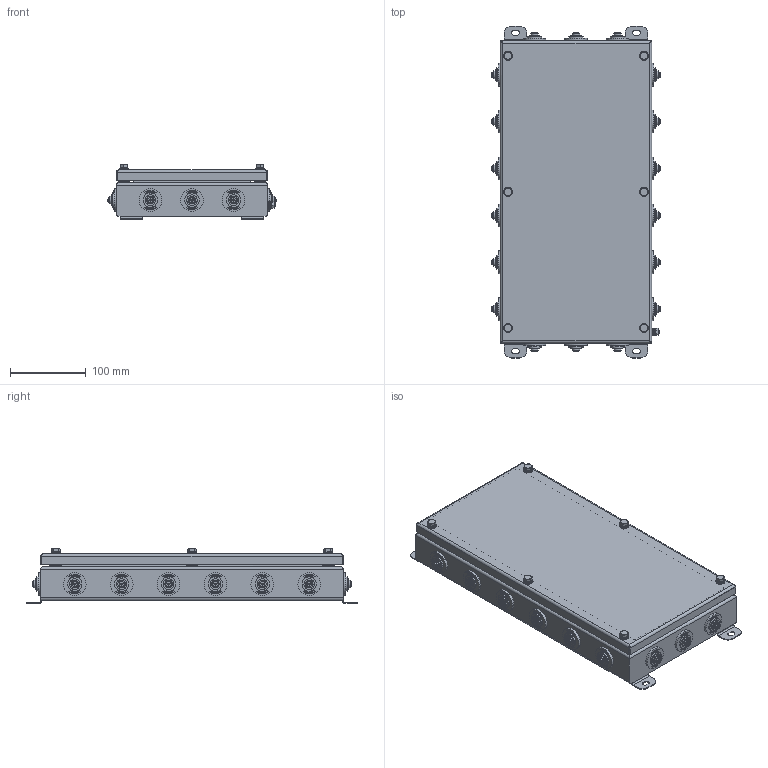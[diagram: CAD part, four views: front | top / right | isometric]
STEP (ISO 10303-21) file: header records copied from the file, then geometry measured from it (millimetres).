
FILE_DESCRIPTION(('STEP AP203'), '1');
FILE_NAME('Êîðîáêà 2040 IP55', '', ('UNSPECIFIED'), ('UNSPECIFIED'), 'ASCON STEP Converter 1.6', 'ASCON Math Kernel', '');
FILE_SCHEMA(('CONFIG_CONTROL_DESIGN'));
Length unit declared in the file: millimetre
Bounding box: 222.5 x 439 x 72.5 mm (x, y, z)
Volume: 4691299.1 mm3; surface area: 319211 mm2
Topology: 2 solids, 2 shells, 3499 faces, 9092 edges, 6022 vertices
Faces by surface type: plane 2622, extrusion 648, cylinder 201, cone 12, torus 8, bspline 8
Full cylindrical faces by diameter (mm): 3.7 x1, 4.134 x1, 5 x1, 5.5 x2, 6 x6, 6.5 x1, 6.6 x6, 7 x18, 8.5 x6, 10 x20, 12 x6, 13 x6, 14 x24, 19 x18, 30 x18
Entity records: 141087 total; most frequent: CARTESIAN_POINT 30136, ORIENTED_EDGE 17876, DIRECTION 14288, EDGE_CURVE 8938, VECTOR 7756, LINE 7108, VERTEX_POINT 6022, EDGE_LOOP 4114
